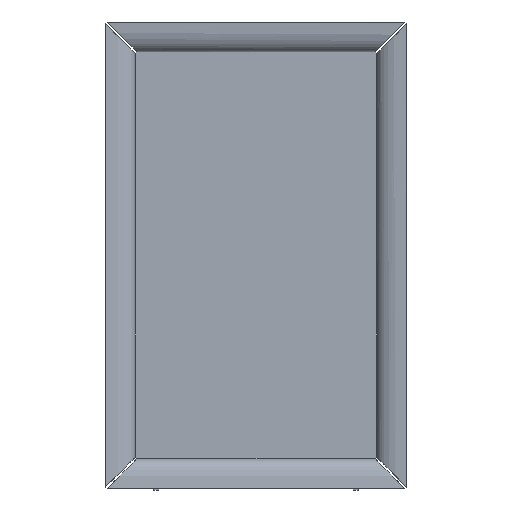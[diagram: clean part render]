
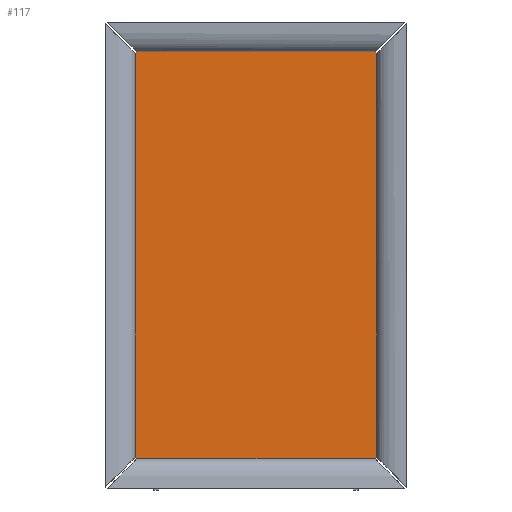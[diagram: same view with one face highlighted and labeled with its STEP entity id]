
A CAD part, top view. The second image highlights one B-rep face of the part: STEP entity #117.
In plain terms, the highlighted planar face has unit normal (0, 0, 1).
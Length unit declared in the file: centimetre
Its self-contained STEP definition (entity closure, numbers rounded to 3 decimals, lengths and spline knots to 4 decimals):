
#117=ADVANCED_FACE($,(#230),#1439,.T.);
#230=FACE_OUTER_BOUND($,#345,.T.);
#345=EDGE_LOOP($,(#775,#776,#777,#778,#779,#780,#781,#782));
#775=ORIENTED_EDGE($,*,*,#1115,.F.);
#776=ORIENTED_EDGE($,*,*,#1106,.F.);
#777=ORIENTED_EDGE($,*,*,#1114,.F.);
#778=ORIENTED_EDGE($,*,*,#1105,.F.);
#779=ORIENTED_EDGE($,*,*,#1113,.F.);
#780=ORIENTED_EDGE($,*,*,#1104,.F.);
#781=ORIENTED_EDGE($,*,*,#1112,.F.);
#782=ORIENTED_EDGE($,*,*,#1107,.F.);
#1104=EDGE_CURVE($,#1299,#1298,#1648,.T.);
#1105=EDGE_CURVE($,#1301,#1300,#1649,.T.);
#1106=EDGE_CURVE($,#1303,#1302,#1650,.T.);
#1107=EDGE_CURVE($,#1305,#1304,#1651,.T.);
#1112=EDGE_CURVE($,#1304,#1299,#1656,.T.);
#1113=EDGE_CURVE($,#1298,#1301,#1657,.T.);
#1114=EDGE_CURVE($,#1300,#1303,#1658,.T.);
#1115=EDGE_CURVE($,#1302,#1305,#1659,.T.);
#1298=VERTEX_POINT($,#3266);
#1299=VERTEX_POINT($,#3267);
#1300=VERTEX_POINT($,#3268);
#1301=VERTEX_POINT($,#3269);
#1302=VERTEX_POINT($,#3270);
#1303=VERTEX_POINT($,#3271);
#1304=VERTEX_POINT($,#3272);
#1305=VERTEX_POINT($,#3273);
#1439=PLANE($,#1848);
#1648=B_SPLINE_CURVE_WITH_KNOTS($,1,(#3164,#3165),.UNSPECIFIED.,.F.,.F.,
(2,2),(0.85,207.95),.UNSPECIFIED.);
#1649=B_SPLINE_CURVE_WITH_KNOTS($,1,(#3166,#3167),.UNSPECIFIED.,.F.,.F.,
(2,2),(0.85,122.95),.UNSPECIFIED.);
#1650=B_SPLINE_CURVE_WITH_KNOTS($,1,(#3168,#3169),.UNSPECIFIED.,.F.,.F.,
(2,2),(0.85,207.95),.UNSPECIFIED.);
#1651=B_SPLINE_CURVE_WITH_KNOTS($,1,(#3170,#3171),.UNSPECIFIED.,.F.,.F.,
(2,2),(0.85,122.95),.UNSPECIFIED.);
#1656=B_SPLINE_CURVE_WITH_KNOTS($,1,(#3180,#3181),.UNSPECIFIED.,.F.,.F.,
(2,2),(-1.,0.),.UNSPECIFIED.);
#1657=B_SPLINE_CURVE_WITH_KNOTS($,1,(#3182,#3183),.UNSPECIFIED.,.F.,.F.,
(2,2),(0.,1.),.UNSPECIFIED.);
#1658=B_SPLINE_CURVE_WITH_KNOTS($,1,(#3184,#3185),.UNSPECIFIED.,.F.,.F.,
(2,2),(0.,1.),.UNSPECIFIED.);
#1659=B_SPLINE_CURVE_WITH_KNOTS($,1,(#3186,#3187),.UNSPECIFIED.,.F.,.F.,
(2,2),(0.,1.),.UNSPECIFIED.);
#1848=AXIS2_PLACEMENT_3D($,#3222,#1907,$);
#1907=DIRECTION($,(0.,0.,1.));
#3164=CARTESIAN_POINT($,(0.,0.85,3.5));
#3165=CARTESIAN_POINT($,(0.,207.95,3.5));
#3166=CARTESIAN_POINT($,(0.85,208.8,3.5));
#3167=CARTESIAN_POINT($,(122.95,208.8,3.5));
#3168=CARTESIAN_POINT($,(123.8,207.95,3.5));
#3169=CARTESIAN_POINT($,(123.8,0.85,3.5));
#3170=CARTESIAN_POINT($,(122.95,0.,3.5));
#3171=CARTESIAN_POINT($,(0.85,0.,3.5));
#3180=CARTESIAN_POINT($,(0.85,0.,3.5));
#3181=CARTESIAN_POINT($,(0.,0.85,3.5));
#3182=CARTESIAN_POINT($,(0.,207.95,3.5));
#3183=CARTESIAN_POINT($,(0.85,208.8,3.5));
#3184=CARTESIAN_POINT($,(122.95,208.8,3.5));
#3185=CARTESIAN_POINT($,(123.8,207.95,3.5));
#3186=CARTESIAN_POINT($,(123.8,0.85,3.5));
#3187=CARTESIAN_POINT($,(122.95,0.,3.5));
#3222=CARTESIAN_POINT($,(0.,0.,3.5));
#3266=CARTESIAN_POINT($,(0.,207.95,3.5));
#3267=CARTESIAN_POINT($,(0.,0.85,3.5));
#3268=CARTESIAN_POINT($,(122.95,208.8,3.5));
#3269=CARTESIAN_POINT($,(0.85,208.8,3.5));
#3270=CARTESIAN_POINT($,(123.8,0.85,3.5));
#3271=CARTESIAN_POINT($,(123.8,207.95,3.5));
#3272=CARTESIAN_POINT($,(0.85,0.,3.5));
#3273=CARTESIAN_POINT($,(122.95,0.,3.5));
